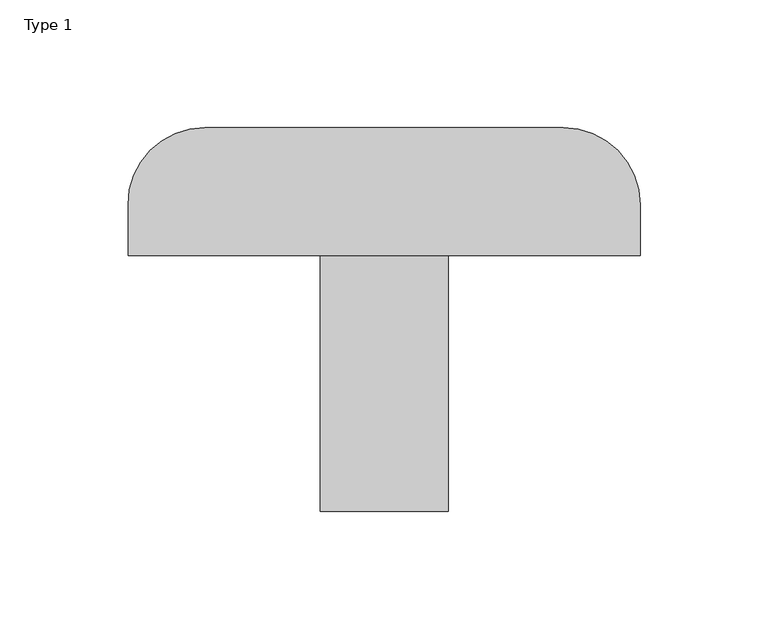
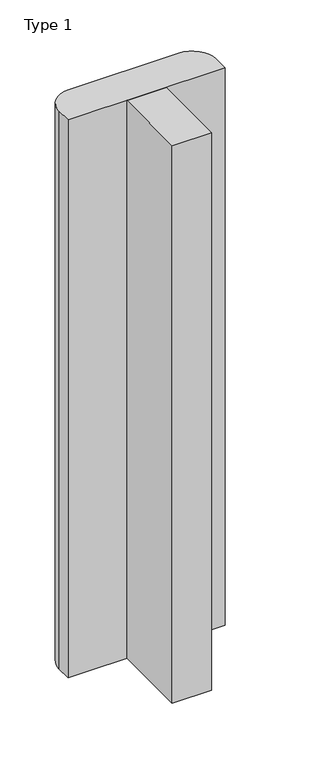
"""IFC4 building model written with IfcOpenShell, lengths in millimetres: proxy geometry, BIMHealth-Bed_Vertical_Bumper-LOD2A-v1 : Type 1."""

from ifc_helpers import new_model, si_unit, point, frame, frame_2d, origin, place, context, project, spatial, polyline, circle_curve, trimmed, segment, composite_curve, outline, extrude, source, transform, mapped, element, save


def type_1_b87888fc(model_context):
    return source(origin(), model_context, "Body", "SweptSolid", [
        extrude(outline(composite_curve([segment(polyline([(25.0, 175.0), (25.0, 195.0)]), True, "CONTINUOUS"), segment(trimmed(circle_curve(frame_2d((55.0, 195.0)), 30.0), [point((25.0, 195.0))], [point((55.0, 225.0))], False, "CARTESIAN"), True, "CONTINUOUS"), segment(polyline([(55.0, 225.0), (195.0, 225.0)]), True, "CONTINUOUS"), segment(trimmed(circle_curve(frame_2d((195.0, 195.0)), 30.0), [point((195.0, 225.0))], [point((225.0, 195.0))], False, "CARTESIAN"), True, "CONTINUOUS"), segment(polyline([(225.0, 195.0), (225.0, 175.0), (125.0, 175.0), (25.0, 175.0)]), True, "CONTINUOUS")], self_intersect=False)), frame((0.0, 0.0, 150.0), z_axis=(0.0, 0.0, 1.0), x_axis=(1.0, 0.0, 0.0)), (0.0, 0.0, 1.0), 750.0),
        extrude(outline(polyline([(100.0, 75.0), (100.0, 175.0), (150.0, 175.0), (150.0, 75.0), (100.0, 75.0)])), frame((0.0, 0.0, 150.0), z_axis=(0.0, 0.0, 1.0), x_axis=(1.0, 0.0, 0.0)), (0.0, 0.0, 1.0), 750.0),
    ])


if __name__ == "__main__":
    model = new_model("IFC4")
    model_context = context("Model", 3, world=origin())
    ifc_project = project(units=[si_unit("LENGTHUNIT", "METRE", prefix="MILLI")], contexts=[model_context])
    site = spatial("IfcSite", under=ifc_project)
    building = spatial("IfcBuilding", under=site)
    placement = place(None, origin())
    type_1_shape = type_1_b87888fc(model_context)
    element("IfcBuildingElementProxy", 1, Name="BIMHealth-Bed_Vertical_Bumper-LOD2A-v1 : Type 1", ObjectType="BIMHealth-Bed_Vertical_Bumper-LOD2A-v1 : Type 1", at=placement, inside=building, context=model_context, shape_type="MappedRepresentation", body=[
        mapped(type_1_shape, transform((0.0, 0.0, 0.0), x_axis=(1.0, 0.0, 0.0), y_axis=(0.0, 1.0, 0.0), z_axis=(0.0, 0.0, 1.0))),
    ])
    save(model, "model.ifc")
